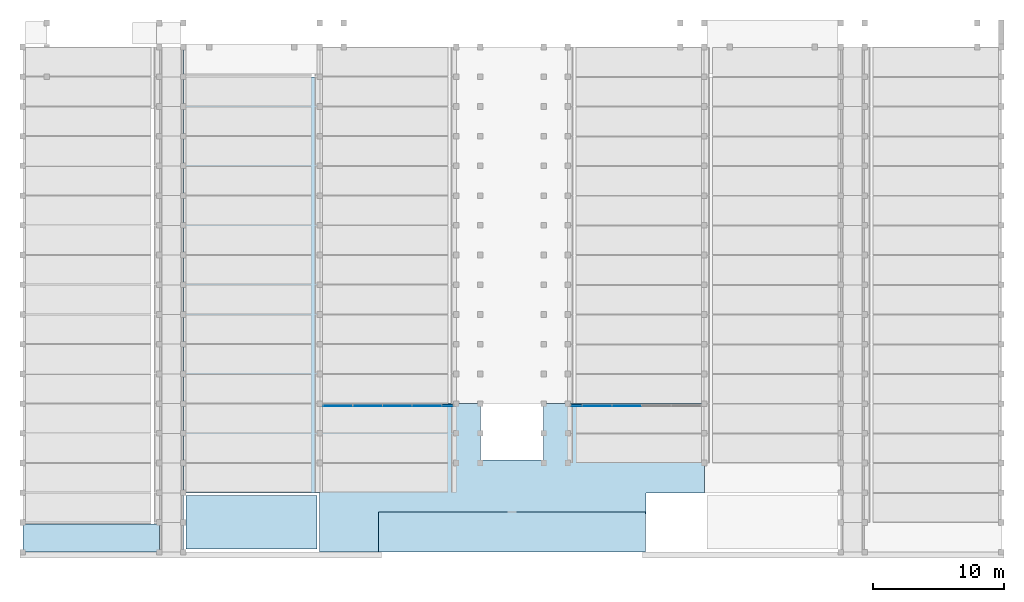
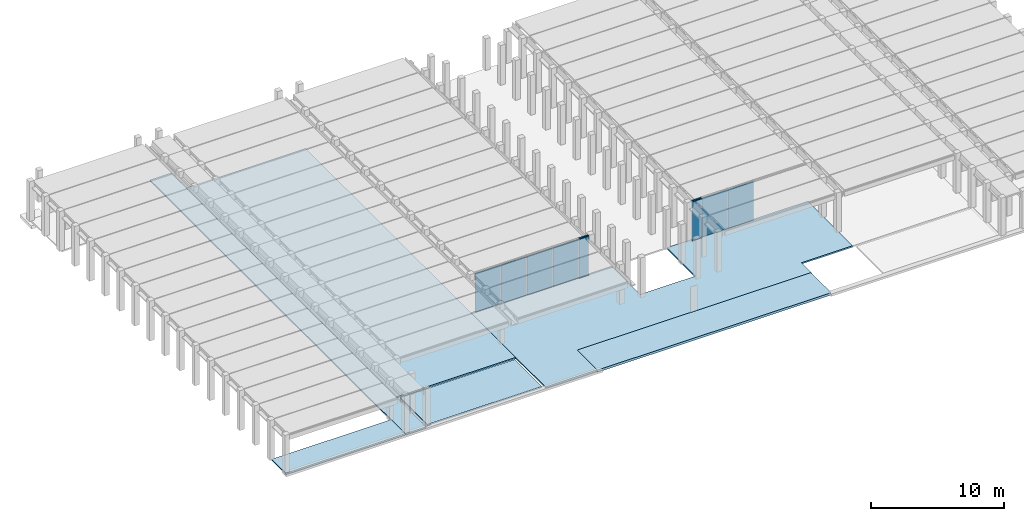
# One storey, part 23 of 25: 8 plates, 6 slabs, 4 members, 2 elements without a shape of their own.
"""IFC2X3 building model written with IfcOpenShell, lengths in millimetres."""

from ifc_helpers import new_model, entity, si_unit, converted_unit, derived_unit, direction, frame, frame_2d, origin, origin_2d_with_axis, place, context, subcontext, project, spatial, polyline, rectangle, outline, extrude, source, transform, mapped, material, layer, layer_set, layer_usage, type_object, type_shapes, element, aggregate, save


model = new_model("IFC2X3")

# Units and contexts
model_context = context("Model", 3, precision=0.01, world=origin(), true_north=direction((6.12303176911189e-17, 1.0)))
body_context = subcontext(model_context, "Body", "Model", "MODEL_VIEW")
ifc_project = project(units=[si_unit("LENGTHUNIT", "METRE", prefix="MILLI"), si_unit("AREAUNIT", "SQUARE_METRE"), si_unit("VOLUMEUNIT", "CUBIC_METRE"), converted_unit("PLANEANGLEUNIT", "DEGREE", entity("IfcRatioMeasure", 0.0174532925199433), si_unit("PLANEANGLEUNIT", "RADIAN"), dimensions=[0, 0, 0, 0, 0, 0, 0]), si_unit("MASSUNIT", "GRAM", prefix="KILO"), derived_unit("MASSDENSITYUNIT", [(si_unit("MASSUNIT", "GRAM", prefix="KILO"), 1), (si_unit("LENGTHUNIT", "METRE"), -3)]), derived_unit("MOMENTOFINERTIAUNIT", [(si_unit("LENGTHUNIT", "METRE"), 4)]), si_unit("TIMEUNIT", "SECOND"), si_unit("FREQUENCYUNIT", "HERTZ"), si_unit("THERMODYNAMICTEMPERATUREUNIT", "DEGREE_CELSIUS"), derived_unit("THERMALTRANSMITTANCEUNIT", [(si_unit("MASSUNIT", "GRAM", prefix="KILO"), 1), (si_unit("THERMODYNAMICTEMPERATUREUNIT", "KELVIN"), -1), (si_unit("TIMEUNIT", "SECOND"), -3)]), derived_unit("VOLUMETRICFLOWRATEUNIT", [(si_unit("LENGTHUNIT", "METRE"), 3), (si_unit("TIMEUNIT", "SECOND"), -1)]), si_unit("ELECTRICCURRENTUNIT", "AMPERE"), si_unit("ELECTRICVOLTAGEUNIT", "VOLT"), si_unit("POWERUNIT", "WATT"), si_unit("FORCEUNIT", "NEWTON", prefix="KILO"), si_unit("ILLUMINANCEUNIT", "LUX"), si_unit("LUMINOUSFLUXUNIT", "LUMEN"), si_unit("LUMINOUSINTENSITYUNIT", "CANDELA"), derived_unit("USERDEFINED", [(si_unit("MASSUNIT", "GRAM", prefix="KILO"), -1), (si_unit("LENGTHUNIT", "METRE"), -2), (si_unit("TIMEUNIT", "SECOND"), 3), (si_unit("LUMINOUSFLUXUNIT", "LUMEN"), 1)]), derived_unit("LINEARVELOCITYUNIT", [(si_unit("LENGTHUNIT", "METRE"), 1), (si_unit("TIMEUNIT", "SECOND"), -1)]), si_unit("PRESSUREUNIT", "PASCAL"), derived_unit("USERDEFINED", [(si_unit("LENGTHUNIT", "METRE"), -2), (si_unit("MASSUNIT", "GRAM", prefix="KILO"), 1), (si_unit("TIMEUNIT", "SECOND"), -2)]), derived_unit("LINEARFORCEUNIT", [(si_unit("MASSUNIT", "GRAM", prefix="KILO"), 1), (si_unit("LENGTHUNIT", "METRE"), 1), (si_unit("TIMEUNIT", "SECOND"), -2), (si_unit("LENGTHUNIT", "METRE"), -1)]), derived_unit("PLANARFORCEUNIT", [(si_unit("MASSUNIT", "GRAM", prefix="KILO"), 1), (si_unit("LENGTHUNIT", "METRE"), 1), (si_unit("TIMEUNIT", "SECOND"), -2), (si_unit("LENGTHUNIT", "METRE"), -2)])], contexts=[model_context])

# Site, building, storey
site_placement = place(None, frame((10627.5135316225, 21939.0796949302, 0.0)))
site = spatial("IfcSite", under=ifc_project, at=site_placement, Name="Default", CompositionType="ELEMENT")
building_placement = place(site_placement, origin())
building = spatial("IfcBuilding", under=site, at=building_placement, CompositionType="ELEMENT")
storey_placement = place(building_placement, origin())
storey = spatial("IfcBuildingStorey", under=building, at=storey_placement, Name="RDC", CompositionType="ELEMENT", Elevation=0.0)

# Curtain wall, members
curtain_wall_type = type_object("IfcCurtainWallType", Name="Curtain Wall:Curtain_Wall-Empty 2", PredefinedType="NOTDEFINED")
curtain_wall_1_placement = place(storey_placement, origin())
curtain_wall_1 = element("IfcCurtainWall", 1, at=curtain_wall_1_placement, inside=storey, type_object=curtain_wall_type, Name="Curtain Wall:Curtain_Wall-Empty 2", ObjectType="Curtain Wall:Curtain_Wall-Empty 2")
ifc_material_1 = material(Name="Aluminium")
member_type_1 = type_object("IfcMemberType", Name="Rectangular Mullion:50x150mm", PredefinedType="MULLION", material=ifc_material_1)
shared_shape_1 = source(origin(), body_context, "Body", "SweptSolid", [
    extrude(rectangle(XDim=150.0, YDim=50.0, at=origin_2d_with_axis()), frame((-25.0, 0.0, -814.0), z_axis=(0.0, 0.0, 1.0), x_axis=(0.0, -1.0, 0.0)), (0.0, 0.0, 1.0), 813.999999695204),
])
type_shapes(member_type_1, [shared_shape_1])
member_1_placement = place(storey_placement, frame((22079.4864683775, -10774.0796949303, 3660.0), z_axis=(1.0, 0.0, 0.0), x_axis=(0.0, 0.0, 1.0)))
member_1 = element("IfcMember", 2, at=member_1_placement, type_object=member_type_1, material=ifc_material_1, Name="Rectangular Mullion:50x150mm", ObjectType="Rectangular Mullion:50x150mm", context=body_context, shape_type="MappedRepresentation", body=[
    mapped(shared_shape_1, transform((0.0, 0.0, 0.0), scale=1.0)),
])
member_type_2 = type_object("IfcMemberType", Name="Rectangular Mullion:50x150mm", PredefinedType="MULLION", material=ifc_material_1)
shared_shape_2 = source(origin(), body_context, "Body", "SweptSolid", [
    extrude(rectangle(XDim=150.0, YDim=50.0, at=origin_2d_with_axis()), frame((-25.0, 0.0, -814.0), z_axis=(0.0, 0.0, 1.0), x_axis=(0.0, -1.0, 0.0)), (0.0, 0.0, 1.0), 813.999999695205),
])
type_shapes(member_type_2, [shared_shape_2])
member_2_placement = place(storey_placement, frame((21265.4864686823, -10774.0796949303, 0.0), z_axis=(-1.0, 0.0, 0.0), x_axis=(0.0, 0.0, -1.0)))
member_2 = element("IfcMember", 3, at=member_2_placement, type_object=member_type_2, material=ifc_material_1, Name="Rectangular Mullion:50x150mm", ObjectType="Rectangular Mullion:50x150mm", context=body_context, shape_type="MappedRepresentation", body=[
    mapped(shared_shape_2, transform((0.0, 0.0, 0.0), scale=1.0)),
])

curtain_wall_2_placement = place(storey_placement, origin())
curtain_wall_2 = element("IfcCurtainWall", 4, at=curtain_wall_2_placement, inside=storey, type_object=curtain_wall_type, Name="Curtain Wall:Curtain_Wall-Empty 2", ObjectType="Curtain Wall:Curtain_Wall-Empty 2")
member_type_3 = type_object("IfcMemberType", Name="Rectangular Mullion:50x150mm", PredefinedType="MULLION", material=ifc_material_1)
shared_shape_3 = source(origin(), body_context, "Body", "SweptSolid", [
    extrude(rectangle(XDim=150.0, YDim=50.0, at=origin_2d_with_axis()), frame((-25.0, 0.0, -814.0), z_axis=(0.0, 0.0, 1.0), x_axis=(0.0, -1.0, 0.0)), (0.0, 0.0, 1.0), 813.999999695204),
])
type_shapes(member_type_3, [shared_shape_3])
member_3_placement = place(storey_placement, frame((31075.4864683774, -10774.0796949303, 3660.0), z_axis=(-1.0, 0.0, 0.0), x_axis=(0.0, 0.0, 1.0)))
member_3 = element("IfcMember", 5, at=member_3_placement, type_object=member_type_3, material=ifc_material_1, Name="Rectangular Mullion:50x150mm", ObjectType="Rectangular Mullion:50x150mm", context=body_context, shape_type="MappedRepresentation", body=[
    mapped(shared_shape_3, transform((0.0, 0.0, 0.0), scale=1.0)),
])
member_type_4 = type_object("IfcMemberType", Name="Rectangular Mullion:50x150mm", PredefinedType="MULLION", material=ifc_material_1)
shared_shape_4 = source(origin(), body_context, "Body", "SweptSolid", [
    extrude(rectangle(XDim=150.0, YDim=50.0, at=origin_2d_with_axis()), frame((-25.0, 0.0, -814.0), z_axis=(0.0, 0.0, 1.0), x_axis=(0.0, -1.0, 0.0)), (0.0, 0.0, 1.0), 813.999999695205),
])
type_shapes(member_type_4, [shared_shape_4])
member_4_placement = place(storey_placement, frame((31889.4864680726, -10774.0796949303, 0.0), z_axis=(1.0, 0.0, 0.0), x_axis=(0.0, 0.0, -1.0)))
member_4 = element("IfcMember", 6, at=member_4_placement, type_object=member_type_4, material=ifc_material_1, Name="Rectangular Mullion:50x150mm", ObjectType="Rectangular Mullion:50x150mm", context=body_context, shape_type="MappedRepresentation", body=[
    mapped(shared_shape_4, transform((0.0, 0.0, 0.0), scale=1.0)),
])

# Slabs
ifc_material_2 = material(Name="Polyurethane FoamRouge")
ifc_layer_1 = layer(ifc_material_2, 30.0)
ifc_material_3 = material(Name="Concrete, Cast-in-Place - C15")
ifc_layer_2 = layer(ifc_material_3, 100.0)
ifc_layer_set_1 = layer_set([ifc_layer_1, ifc_layer_2], Name="Floor:PlancherChauffant130Rouge")
ifc_layer_usage_1 = layer_usage(ifc_layer_set_1, "AXIS3", "POSITIVE", 0.0)
slab_type_1 = type_object("IfcSlabType", Name="Floor:PlancherChauffant130Rouge", PredefinedType="FLOOR", material=ifc_layer_set_1)
slab_1_placement = place(storey_placement, origin())
element("IfcSlab", 7, at=slab_1_placement, inside=storey, type_object=slab_type_1, material=ifc_layer_usage_1, Name="Floor:PlancherChauffant130Rouge", ObjectType="Floor:PlancherChauffant130Rouge", PredefinedType="FLOOR", context=body_context, shape_type="SweptSolid", body=[
    extrude(rectangle(XDim=31640.0, YDim=10380.0, at=frame_2d((9.09494701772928e-13, 0.0), x_axis=(1.0, 0.0))), frame((6772.48646837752, -1599.07969493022, 0.0), z_axis=(0.0, 0.0, -1.0), x_axis=(0.0, 1.0, 0.0)), (0.0, 0.0, 1.0), 130.0),
])
ifc_layer_usage_2 = layer_usage(ifc_layer_set_1, "AXIS3", "POSITIVE", 0.0)
slab_type_2 = type_object("IfcSlabType", Name="Floor:PlancherChauffant130Rouge", PredefinedType="FLOOR", material=ifc_layer_set_1)
slab_2_placement = place(storey_placement, origin())
element("IfcSlab", 8, at=slab_2_placement, inside=storey, type_object=slab_type_2, material=ifc_layer_usage_2, Name="Floor:PlancherChauffant130Rouge", ObjectType="Floor:PlancherChauffant130Rouge", PredefinedType="FLOOR", context=body_context, shape_type="SweptSolid", body=[
    extrude(outline(polyline([(-6143.87989380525, -14636.6666666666), (5126.12010619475, -14636.6666666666), (5126.12010619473, -2411.66666666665), (821.120106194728, -2411.66666666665), (821.12010619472, 2398.33333333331), (5126.12010619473, 2398.33333333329), (5126.12010619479, 14623.3333333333), (-1653.8798938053, 14623.3333333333), (-1653.87989380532, 10173.3333333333), (-3275.60053097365, 10173.3333333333), (-3275.60053097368, -10146.6666666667), (-6143.87989380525, -10146.6666666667), (-6143.87989380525, -14636.6666666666)])), frame((26584.1531350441, -15765.199801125, 0.0), z_axis=(0.0, 0.0, -1.0), x_axis=(0.0, 1.0, 0.0)), (0.0, 0.0, 1.0), 130.0),
])
ifc_layer_usage_3 = layer_usage(ifc_layer_set_1, "AXIS3", "POSITIVE", 0.0)
slab_type_3 = type_object("IfcSlabType", Name="Floor:PlancherChauffant130Rouge", PredefinedType="FLOOR", material=ifc_layer_set_1)
slab_3_placement = place(storey_placement, origin())
element("IfcSlab", 9, at=slab_3_placement, inside=storey, type_object=slab_type_3, material=ifc_layer_usage_3, Name="Floor:PlancherChauffant130Rouge", ObjectType="Floor:PlancherChauffant130Rouge", PredefinedType="FLOOR", context=body_context, shape_type="SweptSolid", body=[
    extrude(rectangle(XDim=38435.0, YDim=1830.00000000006, at=frame_2d((7.27595761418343e-12, -1.28466126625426e-11), x_axis=(1.0, 0.0))), frame((667.486468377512, -2721.57969493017, 0.0), z_axis=(0.0, 0.0, -1.0), x_axis=(0.0, 1.0, 0.0)), (0.0, 0.0, 1.0), 130.0),
])
ifc_layer_usage_4 = layer_usage(ifc_layer_set_1, "AXIS3", "POSITIVE", 0.0)
slab_type_4 = type_object("IfcSlabType", Name="Floor:PlancherChauffant130Rouge", PredefinedType="FLOOR", material=ifc_layer_set_1)
slab_4_placement = place(storey_placement, origin())
element("IfcSlab", 10, at=slab_4_placement, inside=storey, type_object=slab_type_4, material=ifc_layer_usage_4, Name="Floor:PlancherChauffant130Rouge", ObjectType="Floor:PlancherChauffant130Rouge", PredefinedType="FLOOR", context=body_context, shape_type="SweptSolid", body=[
    extrude(rectangle(XDim=2138.27844982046, YDim=10380.0, at=frame_2d((-2.1600499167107e-12, 1.36424205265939e-12), x_axis=(1.0, 0.0))), frame((-5437.51353162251, -20869.94047002, 0.0), z_axis=(0.0, 0.0, -1.0), x_axis=(0.0, 1.0, 0.0)), (0.0, 0.0, 1.0), 130.0),
])
ifc_layer_usage_5 = layer_usage(ifc_layer_set_1, "AXIS3", "POSITIVE", 0.0)
slab_type_5 = type_object("IfcSlabType", Name="Floor:PlancherChauffant130Rouge", PredefinedType="FLOOR", material=ifc_layer_set_1)
slab_5_placement = place(storey_placement, origin())
element("IfcSlab", 11, at=slab_5_placement, inside=storey, type_object=slab_type_5, material=ifc_layer_usage_5, Name="Floor:PlancherChauffant130Rouge", ObjectType="Floor:PlancherChauffant130Rouge", PredefinedType="FLOOR", context=body_context, shape_type="SweptSolid", body=[
    extrude(rectangle(XDim=4088.28103574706, YDim=9955.01184763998, at=frame_2d((1.02318153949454e-12, 0.0), x_axis=(1.0, 0.0))), frame((6767.56751411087, -19664.9391770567, 0.0), z_axis=(0.0, 0.0, -1.0), x_axis=(0.0, 1.0, 0.0)), (0.0, 0.0, 1.0), 130.0),
])

# Plate
ifc_material_4 = material(Name="Glass")
plate_type_1 = type_object("IfcPlateType", Name="System Panel:Glazed", PredefinedType="CURTAIN_PANEL", material=ifc_material_4)
shared_shape_5 = source(origin(), body_context, "Body", "SweptSolid", [
    extrude(rectangle(XDim=25.0, YDim=2210.00000030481, at=frame_2d((2.66453525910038e-15, 0.0), x_axis=(1.0, 0.0))), frame((0.0, -37.0, 0.0), z_axis=(0.0, 0.0, 1.0), x_axis=(0.0, 1.0, 0.0)), (0.0, 0.0, 1.0), 3560.0),
])
type_shapes(plate_type_1, [shared_shape_5])
plate_1_placement = place(curtain_wall_1_placement, frame((13330.4864685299, -10774.0796949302, 50.0)))
plate_1 = element("IfcPlate", 12, at=plate_1_placement, type_object=plate_type_1, material=ifc_material_4, Name="System Panel:Glazed", ObjectType="System Panel:Glazed", context=body_context, shape_type="MappedRepresentation", body=[
    mapped(shared_shape_5, transform((0.0, 0.0, 0.0), scale=1.0)),
])

plate_2_placement = place(curtain_wall_1_placement, frame((15590.4864686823, -10774.0796949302, 50.0)))
plate_2 = element("IfcPlate", 13, at=plate_2_placement, type_object=plate_type_1, material=ifc_material_4, Name="System Panel:Glazed", ObjectType="System Panel:Glazed", context=body_context, shape_type="MappedRepresentation", body=[
    mapped(shared_shape_5, transform((0.0, 0.0, 0.0), scale=1.0)),
])

plate_3_placement = place(curtain_wall_1_placement, frame((17850.4864686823, -10774.0796949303, 50.0)))
plate_3 = element("IfcPlate", 14, at=plate_3_placement, type_object=plate_type_1, material=ifc_material_4, Name="System Panel:Glazed", ObjectType="System Panel:Glazed", context=body_context, shape_type="MappedRepresentation", body=[
    mapped(shared_shape_5, transform((0.0, 0.0, 0.0), scale=1.0)),
])

plate_4_placement = place(curtain_wall_1_placement, frame((20110.4864686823, -10774.0796949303, 50.0)))
plate_4 = element("IfcPlate", 15, at=plate_4_placement, type_object=plate_type_1, material=ifc_material_4, Name="System Panel:Glazed", ObjectType="System Panel:Glazed", context=body_context, shape_type="MappedRepresentation", body=[
    mapped(shared_shape_5, transform((0.0, 0.0, 0.0), scale=1.0)),
])

plate_type_2 = type_object("IfcPlateType", Name="System Panel:Glazed", PredefinedType="CURTAIN_PANEL", material=ifc_material_4)
shared_shape_6 = source(origin(), body_context, "Body", "SweptSolid", [
    extrude(rectangle(XDim=25.0, YDim=813.999999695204, at=frame_2d((2.66453525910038e-15, 0.0), x_axis=(1.0, 0.0))), frame((0.0, -37.0, 0.0), z_axis=(0.0, 0.0, 1.0), x_axis=(0.0, 1.0, 0.0)), (0.0, 0.0, 1.0), 3560.0),
])
type_shapes(plate_type_2, [shared_shape_6])
plate_5_placement = place(curtain_wall_1_placement, frame((21672.4864685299, -10774.0796949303, 50.0)))
plate_5 = element("IfcPlate", 16, at=plate_5_placement, type_object=plate_type_2, material=ifc_material_4, Name="System Panel:Glazed", ObjectType="System Panel:Glazed", context=body_context, shape_type="MappedRepresentation", body=[
    mapped(shared_shape_6, transform((0.0, 0.0, 0.0), scale=1.0)),
])

aggregate(curtain_wall_1, [plate_1, plate_2, plate_3, plate_4, plate_5, member_1, member_2])

plate_type_3 = type_object("IfcPlateType", Name="System Panel:Glazed", PredefinedType="CURTAIN_PANEL", material=ifc_material_4)
shared_shape_7 = source(origin(), body_context, "Body", "SweptSolid", [
    extrude(rectangle(XDim=25.0, YDim=2210.0000003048, at=origin_2d_with_axis()), frame((0.0, 37.0, 0.0), z_axis=(0.0, 0.0, 1.0), x_axis=(0.0, 1.0, 0.0)), (0.0, 0.0, 1.0), 3560.0),
])
type_shapes(plate_type_3, [shared_shape_7])
plate_6_placement = place(curtain_wall_2_placement, frame((35304.4864680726, -10774.0796949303, 50.0), z_axis=(0.0, 0.0, 1.0), x_axis=(-1.0, 0.0, 0.0)))
plate_6 = element("IfcPlate", 17, at=plate_6_placement, type_object=plate_type_3, material=ifc_material_4, Name="System Panel:Glazed", ObjectType="System Panel:Glazed", context=body_context, shape_type="MappedRepresentation", body=[
    mapped(shared_shape_7, transform((0.0, 0.0, 0.0), scale=1.0)),
])

plate_7_placement = place(curtain_wall_2_placement, frame((33044.4864680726, -10774.0796949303, 50.0), z_axis=(0.0, 0.0, 1.0), x_axis=(-1.0, 0.0, 0.0)))
plate_7 = element("IfcPlate", 18, at=plate_7_placement, type_object=plate_type_3, material=ifc_material_4, Name="System Panel:Glazed", ObjectType="System Panel:Glazed", context=body_context, shape_type="MappedRepresentation", body=[
    mapped(shared_shape_7, transform((0.0, 0.0, 0.0), scale=1.0)),
])

plate_type_4 = type_object("IfcPlateType", Name="System Panel:Glazed", PredefinedType="CURTAIN_PANEL", material=ifc_material_4)
shared_shape_8 = source(origin(), body_context, "Body", "SweptSolid", [
    extrude(rectangle(XDim=25.0, YDim=813.999999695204, at=origin_2d_with_axis()), frame((0.0, 37.0, 0.0), z_axis=(0.0, 0.0, 1.0), x_axis=(0.0, 1.0, 0.0)), (0.0, 0.0, 1.0), 3560.0),
])
type_shapes(plate_type_4, [shared_shape_8])
plate_8_placement = place(curtain_wall_2_placement, frame((31482.486468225, -10774.0796949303, 50.0), z_axis=(0.0, 0.0, 1.0), x_axis=(-1.0, 0.0, 0.0)))
plate_8 = element("IfcPlate", 19, at=plate_8_placement, type_object=plate_type_4, material=ifc_material_4, Name="System Panel:Glazed", ObjectType="System Panel:Glazed", context=body_context, shape_type="MappedRepresentation", body=[
    mapped(shared_shape_8, transform((0.0, 0.0, 0.0), scale=1.0)),
])

aggregate(curtain_wall_2, [plate_6, plate_7, plate_8, member_3, member_4])

# Slab
ifc_layer_3 = layer(ifc_material_3, 211.0)
ifc_layer_set_2 = layer_set([ifc_layer_3], Name="Floor:Floor-Upper_160mmConc-CorusComFlor51")
ifc_layer_usage_6 = layer_usage(ifc_layer_set_2, "AXIS3", "POSITIVE", 0.0)
slab_type_6 = type_object("IfcSlabType", Name="Floor:Floor-Upper_160mmConc-CorusComFlor51", PredefinedType="FLOOR", material=ifc_layer_set_2)
slab_6_placement = place(storey_placement, origin())
element("IfcSlab", 20, at=slab_6_placement, inside=storey, type_object=slab_type_6, material=ifc_layer_usage_6, Name="Floor:Floor-Upper_160mmConc-CorusComFlor51", ObjectType="Floor:Floor-Upper_160mmConc-CorusComFlor51", PredefinedType="FLOOR", context=body_context, shape_type="SweptSolid", body=[
    extrude(rectangle(XDim=3041.13667119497, YDim=20315.2417354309, at=frame_2d((1.02318153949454e-12, -1.81898940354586e-12), x_axis=(1.0, 0.0))), frame((26577.4864683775, -20418.5113593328, 0.0), z_axis=(0.0, 0.0, -1.0), x_axis=(0.0, 1.0, 0.0)), (0.0, 0.0, 1.0), 211.0),
])

save(model, "model.ifc")
